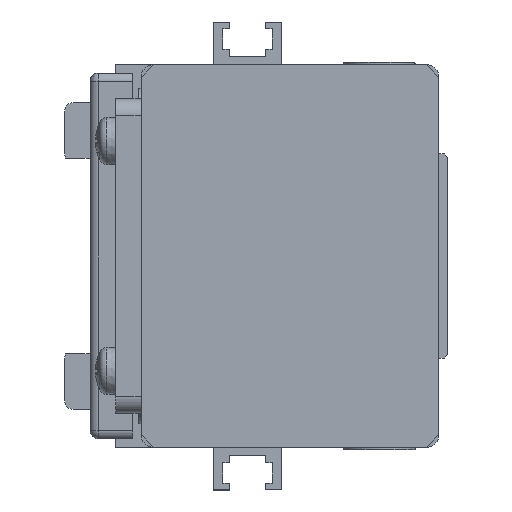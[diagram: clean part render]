
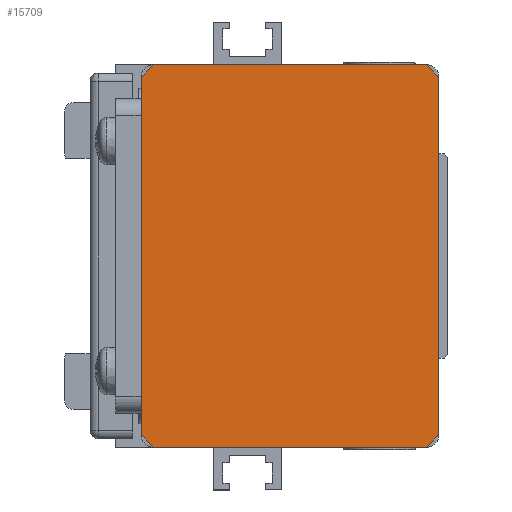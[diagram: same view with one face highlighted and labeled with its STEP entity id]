
A CAD part, left-side view. The second image highlights one B-rep face of the part: STEP entity #15709.
In plain terms, the highlighted planar face has unit normal (-1, 0, 0) as drawn and (0, 0, -1) by its records, which use the part's own axes.
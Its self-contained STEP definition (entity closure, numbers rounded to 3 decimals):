
#660=LINE('',#22731,#2026);
#662=LINE('',#22736,#2028);
#663=LINE('',#22738,#2029);
#664=LINE('',#22740,#2030);
#665=LINE('',#22741,#2031);
#666=LINE('',#22743,#2032);
#667=LINE('',#22745,#2033);
#668=LINE('',#22746,#2034);
#2026=VECTOR('',#18324,2.121);
#2028=VECTOR('',#18328,2.121);
#2029=VECTOR('',#18329,32.);
#2030=VECTOR('',#18330,2.121);
#2031=VECTOR('',#18331,42.);
#2032=VECTOR('',#18332,32.);
#2033=VECTOR('',#18333,2.121);
#2034=VECTOR('',#18334,42.);
#3678=PLANE('',#16752);
#4361=FACE_OUTER_BOUND('',#5327,.T.);
#5327=EDGE_LOOP('',(#10959,#10960,#10961,#10962,#10963,#10964,#10965,#10966));
#6895=VERTEX_POINT('',#22728);
#6896=VERTEX_POINT('',#22730);
#6897=VERTEX_POINT('',#22734);
#6898=VERTEX_POINT('',#22735);
#6899=VERTEX_POINT('',#22737);
#6900=VERTEX_POINT('',#22739);
#6901=VERTEX_POINT('',#22742);
#6902=VERTEX_POINT('',#22744);
#8516=EDGE_CURVE('',#6895,#6896,#660,.T.);
#8518=EDGE_CURVE('',#6897,#6898,#662,.T.);
#8519=EDGE_CURVE('',#6897,#6899,#663,.T.);
#8520=EDGE_CURVE('',#6900,#6899,#664,.T.);
#8521=EDGE_CURVE('',#6900,#6896,#665,.T.);
#8522=EDGE_CURVE('',#6895,#6901,#666,.T.);
#8523=EDGE_CURVE('',#6902,#6901,#667,.T.);
#8524=EDGE_CURVE('',#6902,#6898,#668,.T.);
#10959=ORIENTED_EDGE('',*,*,#8518,.F.);
#10960=ORIENTED_EDGE('',*,*,#8519,.T.);
#10961=ORIENTED_EDGE('',*,*,#8520,.F.);
#10962=ORIENTED_EDGE('',*,*,#8521,.T.);
#10963=ORIENTED_EDGE('',*,*,#8516,.F.);
#10964=ORIENTED_EDGE('',*,*,#8522,.T.);
#10965=ORIENTED_EDGE('',*,*,#8523,.F.);
#10966=ORIENTED_EDGE('',*,*,#8524,.T.);
#15709=ADVANCED_FACE('',(#4361),#3678,.F.);
#16752=AXIS2_PLACEMENT_3D('',#22733,#18326,#18327);
#18324=DIRECTION('',(-0.707,0.707,0.));
#18326=DIRECTION('center_axis',(0.,0.,1.));
#18327=DIRECTION('ref_axis',(1.,0.,0.));
#18328=DIRECTION('',(0.707,-0.707,0.));
#18329=DIRECTION('',(0.,1.,0.));
#18330=DIRECTION('',(-0.707,-0.707,0.));
#18331=DIRECTION('',(1.,0.,0.));
#18332=DIRECTION('',(0.,-1.,0.));
#18333=DIRECTION('',(0.707,0.707,0.));
#18334=DIRECTION('',(-1.,0.,0.));
#22728=CARTESIAN_POINT('',(50.,34.5,-327.));
#22730=CARTESIAN_POINT('',(48.5,36.,-327.));
#22731=CARTESIAN_POINT('',(50.,34.5,-327.));
#22733=CARTESIAN_POINT('Origin',(27.5,18.5,-327.));
#22734=CARTESIAN_POINT('',(5.,2.5,-327.));
#22735=CARTESIAN_POINT('',(6.5,1.,-327.));
#22736=CARTESIAN_POINT('',(5.,2.5,-327.));
#22737=CARTESIAN_POINT('',(5.,34.5,-327.));
#22738=CARTESIAN_POINT('',(5.,2.5,-327.));
#22739=CARTESIAN_POINT('',(6.5,36.,-327.));
#22740=CARTESIAN_POINT('',(6.5,36.,-327.));
#22741=CARTESIAN_POINT('',(6.5,36.,-327.));
#22742=CARTESIAN_POINT('',(50.,2.5,-327.));
#22743=CARTESIAN_POINT('',(50.,34.5,-327.));
#22744=CARTESIAN_POINT('',(48.5,1.,-327.));
#22745=CARTESIAN_POINT('',(48.5,1.,-327.));
#22746=CARTESIAN_POINT('',(48.5,1.,-327.));
